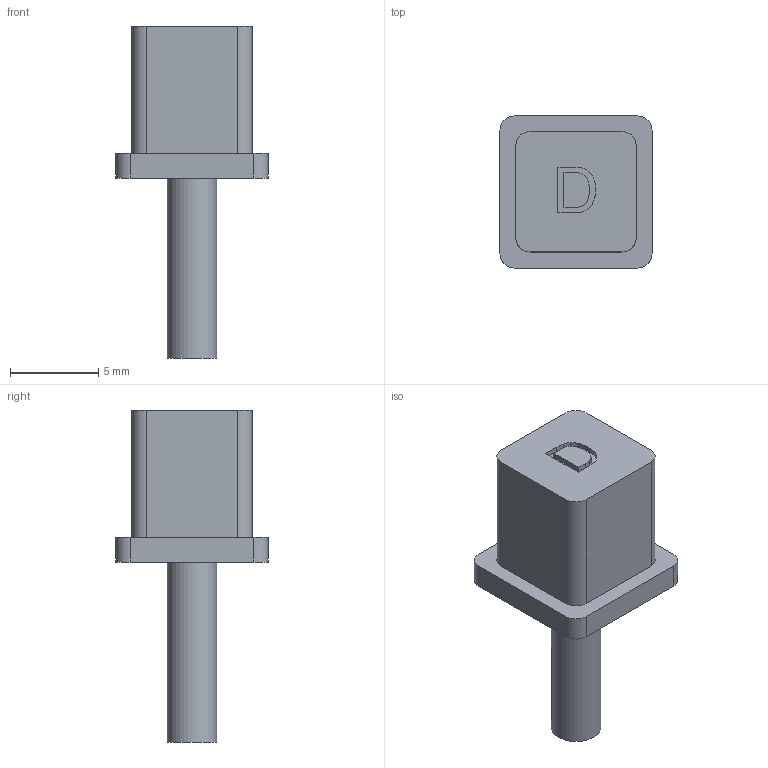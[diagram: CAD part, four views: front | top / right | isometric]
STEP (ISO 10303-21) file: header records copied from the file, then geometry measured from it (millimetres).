
FILE_DESCRIPTION(('Open CASCADE Model'),'2;1');
FILE_NAME('Open CASCADE Shape Model','2026-11-14T12:36:33',('Author'),( 'Open CASCADE'),'Open CASCADE STEP processor 7.9','Open CASCADE 7.9' ,'Unknown');
FILE_SCHEMA(('AUTOMOTIVE_DESIGN { 1 0 10303 214 1 1 1 1 }'));
Length unit declared in the file: millimetre
Products named in the file (1): Open CASCADE STEP translator 7.9 7
Bounding box: 8.6 x 8.6 x 18.77 mm (x, y, z)
Volume: 493.7 mm3; surface area: 472.9 mm2
Topology: 1 solids, 1 shells, 45 faces, 117 edges, 78 vertices
Faces by surface type: plane 20, extrusion 16, cylinder 9
Full cylindrical faces by diameter (mm): 2.8 x1
Entity records: 3124 total; most frequent: CARTESIAN_POINT 910, DIRECTION 344, VECTOR 239, ORIENTED_EDGE 234, PCURVE 234, DEFINITIONAL_REPRESENTATION 234, LINE 223, EDGE_CURVE 117
